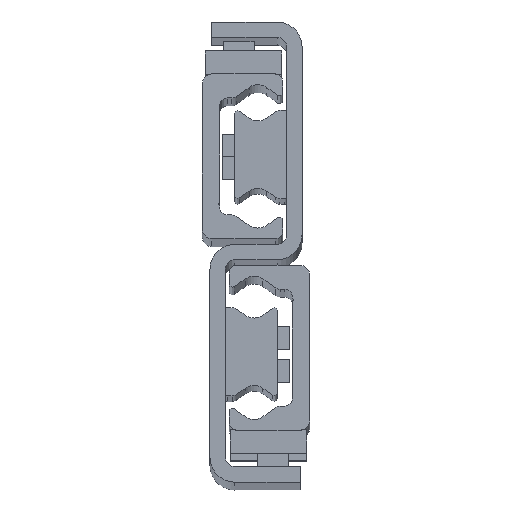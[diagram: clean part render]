
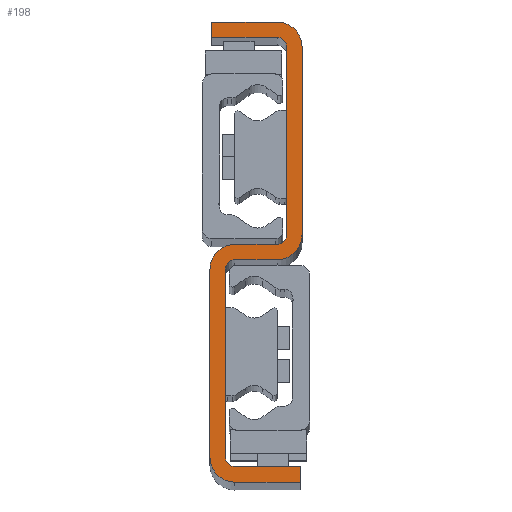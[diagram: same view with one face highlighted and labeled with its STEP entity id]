
A CAD part, top view. The second image highlights one B-rep face of the part: STEP entity #198.
In plain terms, the highlighted planar face has unit normal (0, 0, 1).
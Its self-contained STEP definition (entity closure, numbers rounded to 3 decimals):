
#198=ADVANCED_FACE('',(#665),#666,.T.);
#665=FACE_OUTER_BOUND('',#1403,.T.);
#666=PLANE('',#1404);
#1403=EDGE_LOOP('',(#2813,#2814,#2815,#2816,#2817,#2818,#2819,#2820,#2821,#2822,#2823,#2824,#2825,#2826,#2827,#2828,#2829,#2830,#2831,#2832));
#1404=AXIS2_PLACEMENT_3D('',#2833,#2834,#2835);
#2813=ORIENTED_EDGE('',*,*,#4857,.F.);
#2814=ORIENTED_EDGE('',*,*,#4915,.F.);
#2815=ORIENTED_EDGE('',*,*,#4912,.F.);
#2816=ORIENTED_EDGE('',*,*,#4909,.F.);
#2817=ORIENTED_EDGE('',*,*,#4906,.F.);
#2818=ORIENTED_EDGE('',*,*,#4903,.F.);
#2819=ORIENTED_EDGE('',*,*,#4900,.F.);
#2820=ORIENTED_EDGE('',*,*,#4897,.F.);
#2821=ORIENTED_EDGE('',*,*,#4894,.F.);
#2822=ORIENTED_EDGE('',*,*,#4891,.F.);
#2823=ORIENTED_EDGE('',*,*,#4888,.F.);
#2824=ORIENTED_EDGE('',*,*,#4885,.F.);
#2825=ORIENTED_EDGE('',*,*,#4882,.F.);
#2826=ORIENTED_EDGE('',*,*,#4879,.F.);
#2827=ORIENTED_EDGE('',*,*,#4876,.F.);
#2828=ORIENTED_EDGE('',*,*,#4873,.F.);
#2829=ORIENTED_EDGE('',*,*,#4870,.F.);
#2830=ORIENTED_EDGE('',*,*,#4867,.F.);
#2831=ORIENTED_EDGE('',*,*,#4864,.F.);
#2832=ORIENTED_EDGE('',*,*,#4861,.F.);
#2833=CARTESIAN_POINT('',(-14.,26.,1773.0));
#2834=DIRECTION('',(0.0,0.0,1.0));
#2835=DIRECTION('',(1.0,0.0,0.0));
#4857=EDGE_CURVE('',#5895,#5896,#5897,.T.);
#4861=EDGE_CURVE('',#5896,#5903,#5904,.T.);
#4864=EDGE_CURVE('',#5903,#5908,#5909,.T.);
#4867=EDGE_CURVE('',#5908,#5913,#5914,.T.);
#4870=EDGE_CURVE('',#5913,#5918,#5919,.T.);
#4873=EDGE_CURVE('',#5918,#5923,#5924,.T.);
#4876=EDGE_CURVE('',#5923,#5928,#5929,.T.);
#4879=EDGE_CURVE('',#5928,#5933,#5934,.T.);
#4882=EDGE_CURVE('',#5933,#5938,#5939,.T.);
#4885=EDGE_CURVE('',#5938,#5943,#5944,.T.);
#4888=EDGE_CURVE('',#5943,#5948,#5949,.T.);
#4891=EDGE_CURVE('',#5948,#5953,#5954,.T.);
#4894=EDGE_CURVE('',#5953,#5958,#5959,.T.);
#4897=EDGE_CURVE('',#5958,#5963,#5964,.T.);
#4900=EDGE_CURVE('',#5963,#5968,#5969,.T.);
#4903=EDGE_CURVE('',#5968,#5973,#5974,.T.);
#4906=EDGE_CURVE('',#5973,#5978,#5979,.T.);
#4909=EDGE_CURVE('',#5978,#5983,#5984,.T.);
#4912=EDGE_CURVE('',#5983,#5988,#5989,.T.);
#4915=EDGE_CURVE('',#5988,#5895,#5993,.T.);
#5895=VERTEX_POINT('',#7513);
#5896=VERTEX_POINT('',#7514);
#5897=LINE('',#7515,#7516);
#5903=VERTEX_POINT('',#7525);
#5904=CIRCLE('',#7526,2.5);
#5908=VERTEX_POINT('',#7531);
#5909=LINE('',#7532,#7533);
#5913=VERTEX_POINT('',#7539);
#5914=CIRCLE('',#7540,2.5);
#5918=VERTEX_POINT('',#7545);
#5919=LINE('',#7546,#7547);
#5923=VERTEX_POINT('',#7553);
#5924=LINE('',#7554,#7555);
#5928=VERTEX_POINT('',#7561);
#5929=LINE('',#7562,#7563);
#5933=VERTEX_POINT('',#7569);
#5934=CIRCLE('',#7570,6.5);
#5938=VERTEX_POINT('',#7575);
#5939=LINE('',#7576,#7577);
#5943=VERTEX_POINT('',#7583);
#5944=CIRCLE('',#7584,6.5);
#5948=VERTEX_POINT('',#7589);
#5949=LINE('',#7590,#7591);
#5953=VERTEX_POINT('',#7597);
#5954=CIRCLE('',#7598,2.5);
#5958=VERTEX_POINT('',#7603);
#5959=LINE('',#7604,#7605);
#5963=VERTEX_POINT('',#7611);
#5964=CIRCLE('',#7612,2.5);
#5968=VERTEX_POINT('',#7617);
#5969=LINE('',#7618,#7619);
#5973=VERTEX_POINT('',#7625);
#5974=LINE('',#7626,#7627);
#5978=VERTEX_POINT('',#7633);
#5979=LINE('',#7634,#7635);
#5983=VERTEX_POINT('',#7641);
#5984=CIRCLE('',#7642,6.5);
#5988=VERTEX_POINT('',#7647);
#5989=LINE('',#7648,#7649);
#5993=CIRCLE('',#7655,6.5);
#7513=CARTESIAN_POINT('',(-8.5,24.,1773.0));
#7514=CARTESIAN_POINT('',(-19.5,24.,1773.0));
#7515=CARTESIAN_POINT('',(-8.5,24.,1773.0));
#7516=VECTOR('',#9253,1.0);
#7525=CARTESIAN_POINT('',(-22.,21.5,1773.0));
#7526=AXIS2_PLACEMENT_3D('',#9257,#9258,#9259);
#7531=CARTESIAN_POINT('',(-22.,-27.5,1773.0));
#7532=CARTESIAN_POINT('',(-22.,-27.5,1773.0));
#7533=VECTOR('',#9264,1.0);
#7539=CARTESIAN_POINT('',(-19.5,-30.,1773.0));
#7540=AXIS2_PLACEMENT_3D('',#9267,#9268,#9269);
#7545=CARTESIAN_POINT('',(-2.5,-30.,1773.0));
#7546=CARTESIAN_POINT('',(-19.5,-30.,1773.0));
#7547=VECTOR('',#9274,1.0);
#7553=CARTESIAN_POINT('',(-2.5,-34.,1773.0));
#7554=CARTESIAN_POINT('',(-2.5,-34.,1773.0));
#7555=VECTOR('',#9277,1.0);
#7561=CARTESIAN_POINT('',(-19.5,-34.,1773.0));
#7562=CARTESIAN_POINT('',(-19.5,-34.,1773.0));
#7563=VECTOR('',#9280,1.0);
#7569=CARTESIAN_POINT('',(-26.,-27.5,1773.0));
#7570=AXIS2_PLACEMENT_3D('',#9283,#9284,#9285);
#7575=CARTESIAN_POINT('',(-26.,21.5,1773.0));
#7576=CARTESIAN_POINT('',(-26.,21.5,1773.0));
#7577=VECTOR('',#9290,1.0);
#7583=CARTESIAN_POINT('',(-19.5,28.,1773.0));
#7584=AXIS2_PLACEMENT_3D('',#9293,#9294,#9295);
#7589=CARTESIAN_POINT('',(-8.5,28.,1773.0));
#7590=CARTESIAN_POINT('',(-8.5,28.,1773.0));
#7591=VECTOR('',#9300,1.0);
#7597=CARTESIAN_POINT('',(-6.,30.5,1773.0));
#7598=AXIS2_PLACEMENT_3D('',#9303,#9304,#9305);
#7603=CARTESIAN_POINT('',(-6.,79.5,1773.0));
#7604=CARTESIAN_POINT('',(-6.,79.5,1773.0));
#7605=VECTOR('',#9310,1.0);
#7611=CARTESIAN_POINT('',(-8.5,82.,1773.0));
#7612=AXIS2_PLACEMENT_3D('',#9313,#9314,#9315);
#7617=CARTESIAN_POINT('',(-25.5,82.,1773.0));
#7618=CARTESIAN_POINT('',(-25.5,82.,1773.0));
#7619=VECTOR('',#9320,1.0);
#7625=CARTESIAN_POINT('',(-25.5,86.,1773.0));
#7626=CARTESIAN_POINT('',(-25.5,86.,1773.0));
#7627=VECTOR('',#9323,1.0);
#7633=CARTESIAN_POINT('',(-8.5,86.,1773.0));
#7634=CARTESIAN_POINT('',(-25.5,86.,1773.0));
#7635=VECTOR('',#9326,1.0);
#7641=CARTESIAN_POINT('',(-2.,79.5,1773.0));
#7642=AXIS2_PLACEMENT_3D('',#9329,#9330,#9331);
#7647=CARTESIAN_POINT('',(-2.,30.5,1773.0));
#7648=CARTESIAN_POINT('',(-2.,79.5,1773.0));
#7649=VECTOR('',#9336,1.0);
#7655=AXIS2_PLACEMENT_3D('',#9339,#9340,#9341);
#9253=DIRECTION('',(-1.0,0.,0.0));
#9257=CARTESIAN_POINT('',(-19.5,21.5,1773.0));
#9258=DIRECTION('',(0.0,0.0,1.0));
#9259=DIRECTION('',(1.0,0.0,0.0));
#9264=DIRECTION('',(-0.0,-1.0,-0.0));
#9267=CARTESIAN_POINT('',(-19.5,-27.5,1773.0));
#9268=DIRECTION('',(0.0,0.0,1.0));
#9269=DIRECTION('',(1.0,0.0,0.0));
#9274=DIRECTION('',(1.,0.,0.0));
#9277=DIRECTION('',(-0.0,-1.0,-0.0));
#9280=DIRECTION('',(-1.,0.,-0.0));
#9283=CARTESIAN_POINT('',(-19.5,-27.5,1773.0));
#9284=DIRECTION('',(0.0,0.0,-1.0));
#9285=DIRECTION('',(1.0,0.0,0.0));
#9290=DIRECTION('',(0.0,1.0,0.0));
#9293=CARTESIAN_POINT('',(-19.5,21.5,1773.0));
#9294=DIRECTION('',(0.0,0.0,-1.0));
#9295=DIRECTION('',(1.0,0.0,0.0));
#9300=DIRECTION('',(1.0,0.,0.0));
#9303=CARTESIAN_POINT('',(-8.5,30.5,1773.0));
#9304=DIRECTION('',(0.0,0.0,1.0));
#9305=DIRECTION('',(1.0,0.0,0.0));
#9310=DIRECTION('',(0.0,1.0,0.0));
#9313=CARTESIAN_POINT('',(-8.5,79.5,1773.0));
#9314=DIRECTION('',(0.0,0.0,1.0));
#9315=DIRECTION('',(1.0,0.0,0.0));
#9320=DIRECTION('',(-1.,0.,0.0));
#9323=DIRECTION('',(0.0,1.0,0.0));
#9326=DIRECTION('',(1.,0.,0.0));
#9329=CARTESIAN_POINT('',(-8.5,79.5,1773.0));
#9330=DIRECTION('',(0.0,0.0,-1.0));
#9331=DIRECTION('',(1.0,0.0,0.0));
#9336=DIRECTION('',(0.,-1.0,0.0));
#9339=CARTESIAN_POINT('',(-8.5,30.5,1773.0));
#9340=DIRECTION('',(0.0,0.0,-1.0));
#9341=DIRECTION('',(1.0,0.0,0.0));
